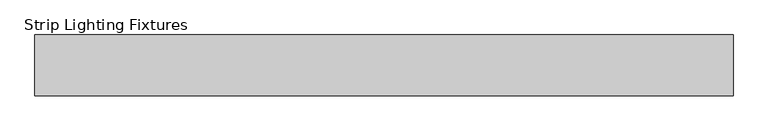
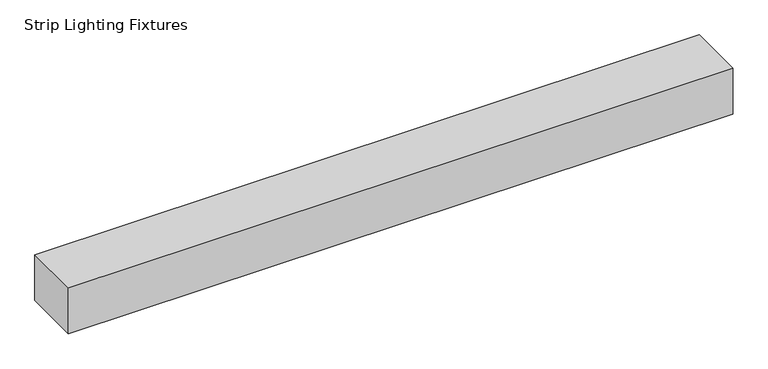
"""IFC4 building model written with IfcOpenShell, lengths in millimetres: light fixture geometry, Strip Lighting Fixtures : 4’ 2 Lamp - 277."""

from ifc_helpers import new_model, si_unit, origin, origin_with_axes, place, context, project, spatial, polyline, outline, extrude, source, transform, mapped, element, save


def strip_lighting_fixtures_c3f5e0e3(model_context):
    return source(origin(), model_context, "Body", "SweptSolid", [
        extrude(outline(polyline([(1219.2, 53.18125), (1219.2, -53.18125), (0.0, -53.18125), (0.0, 53.18125), (1219.2, 53.18125)])), origin_with_axes(), (0.0, 0.0, 1.0), 88.9),
    ])


if __name__ == "__main__":
    model = new_model("IFC4")
    model_context = context("Model", 3, world=origin())
    ifc_project = project(units=[si_unit("LENGTHUNIT", "METRE", prefix="MILLI")], contexts=[model_context])
    site = spatial("IfcSite", under=ifc_project)
    building = spatial("IfcBuilding", under=site)
    placement = place(None, origin())
    strip_lighting_fixtures_shape = strip_lighting_fixtures_c3f5e0e3(model_context)
    element("IfcLightFixture", 1, ObjectType="Strip Lighting Fixtures : 4’ 2 Lamp - 277", at=placement, inside=building, context=model_context, shape_type="MappedRepresentation", body=[
        mapped(strip_lighting_fixtures_shape, transform((0.0, 0.0, 0.0), x_axis=(1.0, 0.0, 0.0), y_axis=(0.0, 1.0, 0.0), z_axis=(0.0, 0.0, 1.0))),
    ])
    save(model, "model.ifc")
